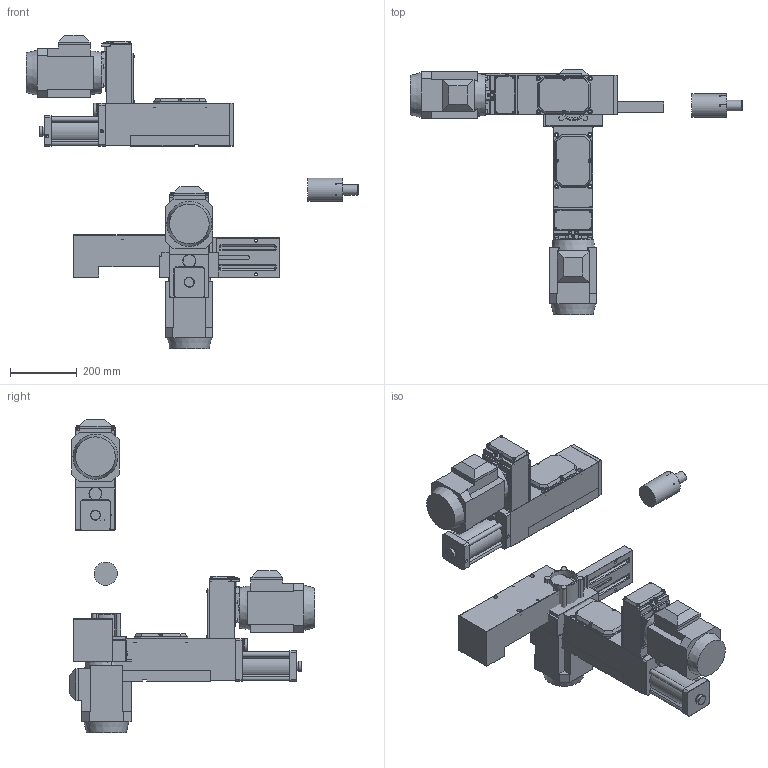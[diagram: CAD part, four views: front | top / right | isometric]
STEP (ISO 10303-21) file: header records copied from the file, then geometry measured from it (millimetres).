
FILE_DESCRIPTION( ( 'STEP AP203' ), '1' );
FILE_NAME( 'C:/Documents and Settings/Saverio/Desktop/disegni ironcad/unità serie 1/F 114/F 114_A04_P.stp', '2013-12-10T14:53:55', ( ' ' ), ( ' ' ), 'XStep 1.0', ' ', ' ' );
FILE_SCHEMA( ( 'CONFIG_CONTROL_DESIGN' ) );
Length unit declared in the file: metre
Products named in the file (39): Assem1; Assem2; Assem3; 1; 2; 3; 4; 5; 6; 7; 8; 9; 10; 11; 12; 13; 14; 15; 16; 17; 18; 19; 20; 21; 22; 23; 24; 25; 26; 27; 28; 29; 30; 31; 32; 33; 34; 35; 36
Bounding box: 995.39 x 737.2 x 939.13 mm (x, y, z)
Volume: 31355887 mm3; surface area: 3037833 mm2
Topology: 108 solids, 111 shells, 2466 faces, 5496 edges, 3357 vertices
Faces by surface type: plane 1611, cylinder 435, cone 324, sphere 60, bspline 24, torus 12
Full cylindrical faces by diameter (mm): 4.5 x12, 5 x33, 5.5 x15, 6 x30, 6.5 x6, 6.9 x12, 8.385 x3, 8.5 x24, 9.87 x12, 10.25 x6, 13.5 x12, 16 x3, 18 x3, 27.5 x3, 30 x3, 32 x6, 36 x3, 39 x3, 47 x3, 52 x6, 52.5 x3, 54 x6, 54.4 x3, 70 x3, 71 x3, 80 x15
Entity records: 24307 total; most frequent: CARTESIAN_POINT 5036, DIRECTION 3679, ORIENTED_EDGE 3270, EDGE_CURVE 1635, AXIS2_PLACEMENT_3D 1300, VERTEX_POINT 1099, EDGE_LOOP 1086, LINE 1079
